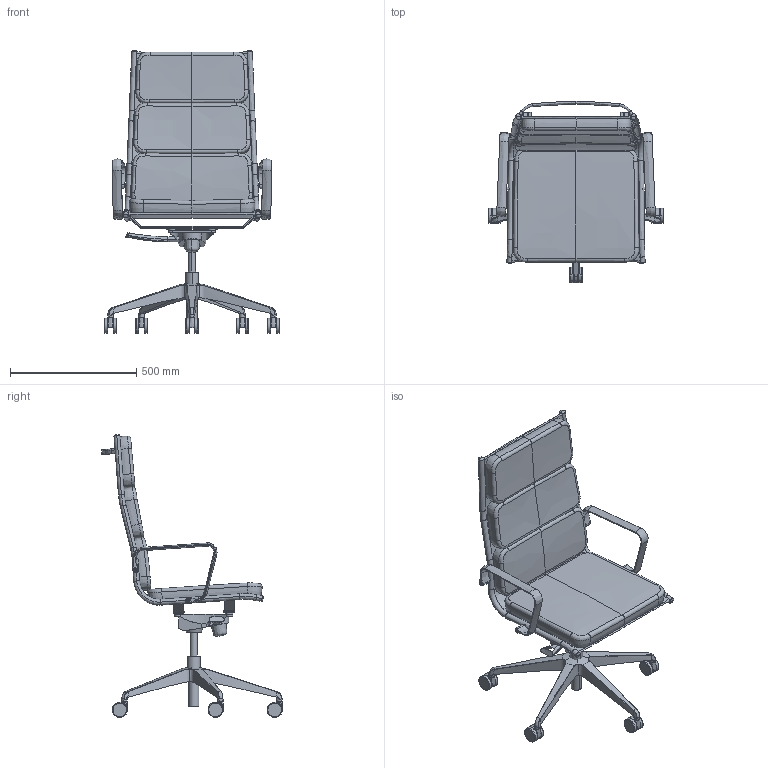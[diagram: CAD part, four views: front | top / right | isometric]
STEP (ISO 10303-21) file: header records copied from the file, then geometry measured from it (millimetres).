
FILE_DESCRIPTION(/* description */ (''),/* implementation_level */ '2;1');
FILE_NAME(/* name */ 'FLY700~1',/* time_stamp */ '2017-10-19T14:38:29+02:00',/* author */ (''),/* organization */ (''),/* preprocessor_version */ 'ST-DEVELOPER v15',/* originating_system */ '',/* authorisation */ '');
FILE_SCHEMA (('CONFIG_CONTROL_DESIGN'));
Length unit declared in the file: millimetre
Products named in the file (1): Document
Bounding box: 694.82 x 716.2 x 1119.81 mm (x, y, z)
Volume: 2966162.5 mm3; surface area: 2743471 mm2
Topology: 11 solids, 53 shells, 594 faces, 1426 edges, 855 vertices
Faces by surface type: bspline 472, plane 122
Entity records: 33780 total; most frequent: CARTESIAN_POINT 25889, ORIENTED_EDGE 2584, EDGE_CURVE 1387, VERTEX_POINT 849, EDGE_LOOP 606, ADVANCED_FACE 594, FACE_OUTER_BOUND 594, B_SPLINE_CURVE_WITH_KNOTS 570
